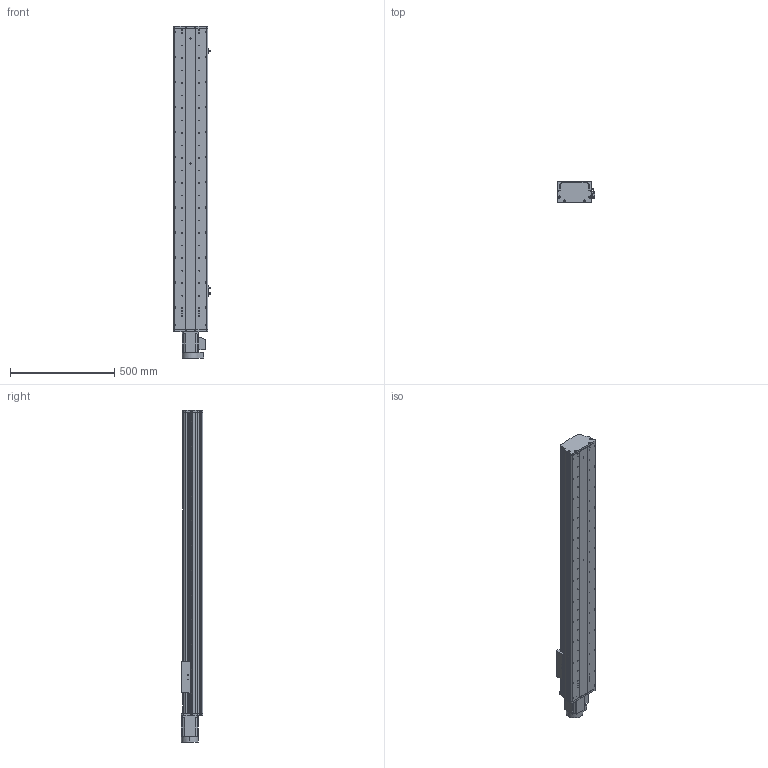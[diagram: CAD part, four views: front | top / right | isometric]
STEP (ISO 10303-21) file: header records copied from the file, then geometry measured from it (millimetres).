
FILE_DESCRIPTION (( 'STEP AP214' ), '1' );
FILE_NAME ('KSD165S-S1150-MN-CM.STEP', '2017-08-07T08:23:08', ( '微软用户' ), ( '微软中国' ), 'SwSTEP 2.0', 'SolidWorks 2014', '' );
FILE_SCHEMA (( 'AUTOMOTIVE_DESIGN' ));
Length unit declared in the file: millimetre
Products named in the file (12): 拸秶雄ん750W侜督萇儂; KSD165模组-直连不带电机座电机连接板; KSD165耀郪-佪裝-滅袉菜-3 -; C44ㄜ1912WP; 覜茼え68遵圉猾敕; U倰嫖萇假蚾璃; U倰嫖萇EEㄜSX672; KSD165耀郪-綴傷啣1; KSD165模组-丝杆滑动座-最新版; KSD165S-S1150-MN-CM; KSD165模组-防尘盖1-1150行程-直连不带电机座; KSD165模组底板-1150行程-直连不带电机座
Assembly tree (15 placements, depth 2):
  KSD165S-S1150-MN-CM
    KSD165模组-丝杆滑动座-最新版
    KSD165耀郪-綴傷啣1
    U倰嫖萇EEㄜSX672  x3
    U倰嫖萇假蚾璃  x3
    覜茼え68遵圉猾敕
    C44ㄜ1912WP
    KSD165耀郪-佪裝-滅袉菜-3 -
    KSD165模组-直连不带电机座电机连接板
    拸秶雄ん750W侜督萇儂
    KSD165模组底板-1150行程-直连不带电机座
    KSD165模组-防尘盖1-1150行程-直连不带电机座
Bounding box: 178.7 x 104 x 1593 mm (x, y, z)
Volume: 8540497 mm3; surface area: 1911161 mm2
Topology: 16 solids, 16 shells, 1291 faces, 3628 edges, 2357 vertices
Faces by surface type: cylinder 711, plane 503, cone 77
Entity records: 41575 total; most frequent: CARTESIAN_POINT 9243, DIRECTION 6165, ORIENTED_EDGE 5936, EDGE_CURVE 2968, AXIS2_PLACEMENT_3D 2335, VERTEX_POINT 1949, LINE 1495, VECTOR 1495
